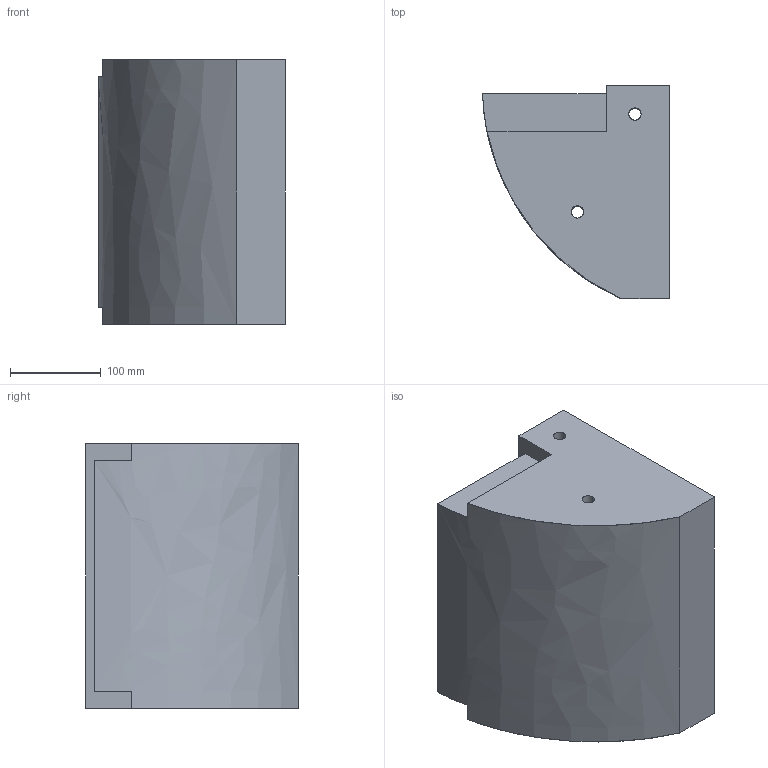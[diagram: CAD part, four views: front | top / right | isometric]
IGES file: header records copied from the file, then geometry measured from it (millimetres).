
Start section: SolidWorks IGES FILE using analytic representation for surfaces
Global section: file name: C:\Dorado\Drawings\ExtendedBatteryMidbody\Drawings\ExtMidbodyFoamSplit.IGS; native system: SolidWorks 2003 by SolidWorks Corporation; preprocessor: Version 5.3; author: gashler; date: 030401.134004; units: inch
Bounding box: 206.2 x 234.95 x 292.1 mm (x, y, z)
Surface area: 329384.6 mm2 (no closed solid volume)
Topology: 0 solids, 0 shells, 16 faces, 220 edges, 220 vertices
Faces by surface type: bspline 11, revolution 5
